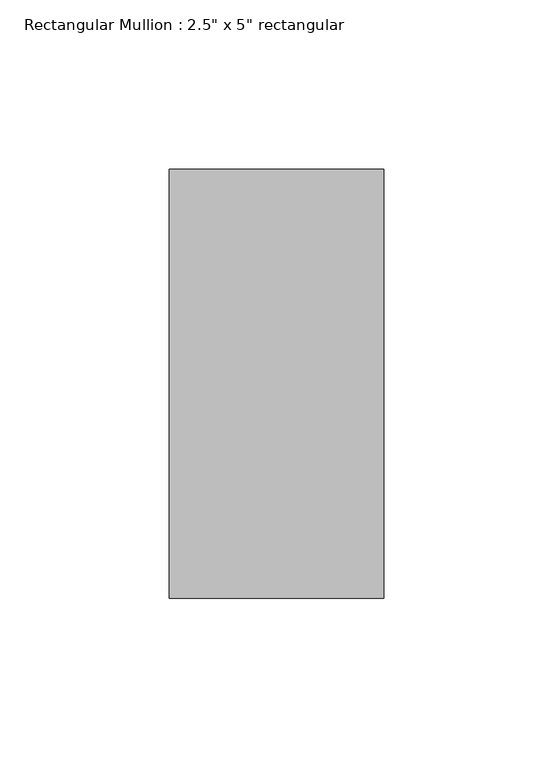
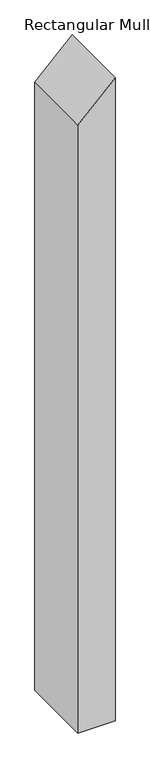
"""IFC4 building model written with IfcOpenShell, lengths in millimetres: member geometry."""

from ifc_helpers import new_model, si_unit, frame, origin, place, context, project, spatial, polyline, outline, extrude, source, transform, mapped, element, save


def member_69fb9789(model_context):
    return source(origin(), model_context, "Body", "SweptSolid", [
        extrude(outline(polyline([(-58.0525612, 31.75), (-121.5525612, -31.75), (-1219.2000002, -31.75), (-1219.2000002, 31.75), (-58.0525612, 31.75)])), frame((0.0, -63.5, 0.0), z_axis=(0.0, 1.0, 0.0), x_axis=(0.0, 0.0, 1.0)), (0.0, 0.0, 1.0), 127.0),
    ])


if __name__ == "__main__":
    model = new_model("IFC4")
    model_context = context("Model", 3, world=origin())
    ifc_project = project(units=[si_unit("LENGTHUNIT", "METRE", prefix="MILLI")], contexts=[model_context])
    site = spatial("IfcSite", under=ifc_project)
    building = spatial("IfcBuilding", under=site)
    placement = place(None, origin())
    member_shape = member_69fb9789(model_context)
    element("IfcMember", 1, ObjectType="Rectangular Mullion : 2.5\" x 5\" rectangular", at=placement, inside=building, context=model_context, shape_type="MappedRepresentation", body=[
        mapped(member_shape, transform((0.0, 0.0, 0.0), x_axis=(1.0, 0.0, 0.0), y_axis=(0.0, 1.0, 0.0), z_axis=(0.0, 0.0, 1.0))),
    ])
    save(model, "model.ifc")
